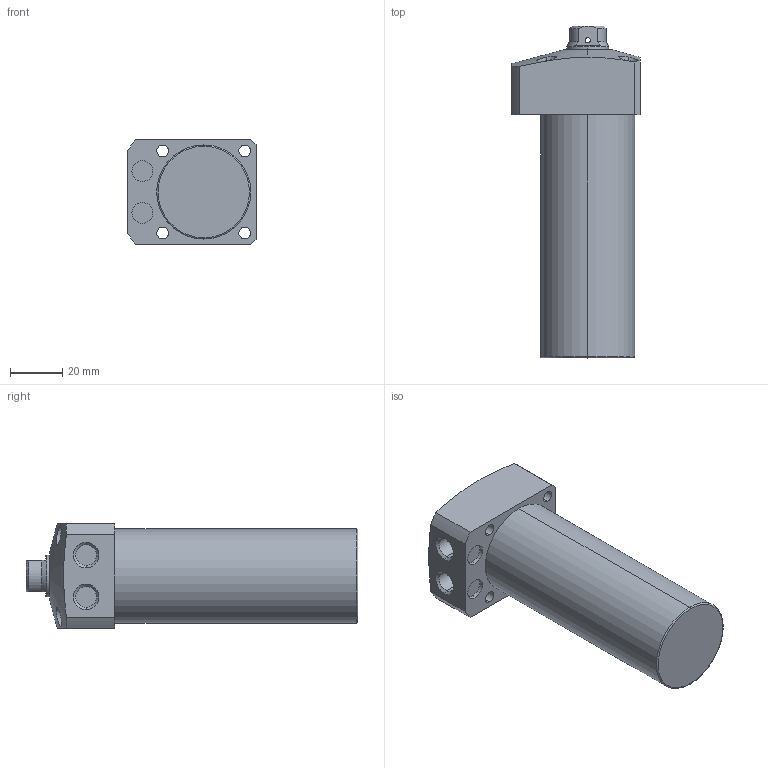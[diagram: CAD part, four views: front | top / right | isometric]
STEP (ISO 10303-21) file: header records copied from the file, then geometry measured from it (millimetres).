
FILE_DESCRIPTION (( 'STEP AP203' ), '1' );
FILE_NAME ('CLL-036CB-070.STEP', '2019-12-21T02:29:08', ( '' ), ( '' ), 'SwSTEP 2.0', 'SolidWorks 2015', '' );
FILE_SCHEMA (( 'CONFIG_CONTROL_DESIGN' ));
Length unit declared in the file: millimetre
Products named in the file (1): CLL-036CB-070
Bounding box: 49 x 127 x 40 mm (x, y, z)
Volume: 136082.6 mm3; surface area: 20726.1 mm2
Topology: 1 solids, 1 shells, 76 faces, 184 edges, 117 vertices
Faces by surface type: cylinder 38, plane 22, cone 14, torus 2
Entity records: 2699 total; most frequent: CARTESIAN_POINT 814, DIRECTION 386, ORIENTED_EDGE 364, EDGE_CURVE 182, AXIS2_PLACEMENT_3D 159, VERTEX_POINT 117, EDGE_LOOP 97, CIRCLE 82
